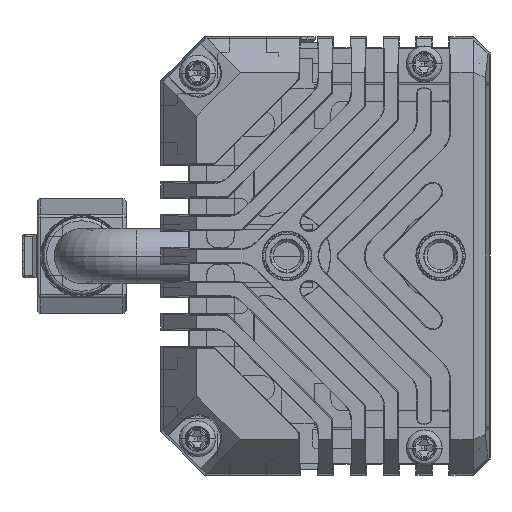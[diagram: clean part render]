
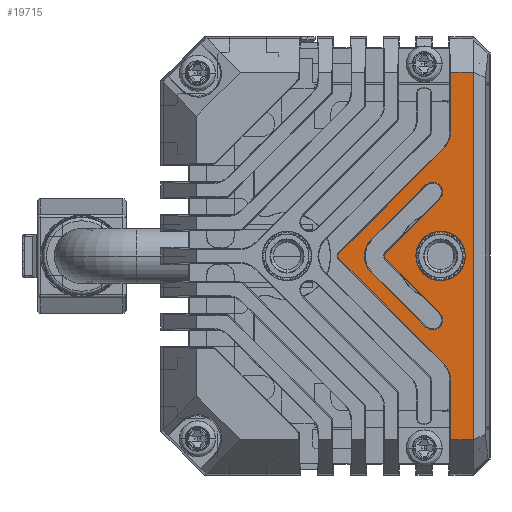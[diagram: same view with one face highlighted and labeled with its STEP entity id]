
A CAD part, left-side view. The second image highlights one B-rep face of the part: STEP entity #19715.
In plain terms, the highlighted planar face has unit normal (-1, 0, 0) as drawn and (0, 0, 1) by its records, which use the part's own axes.
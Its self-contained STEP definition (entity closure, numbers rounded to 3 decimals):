
#12613=CARTESIAN_POINT('',(0.,-1.473,0.));
#12614=DIRECTION('',(0.,0.,1.));
#12615=DIRECTION('',(0.707,0.707,0.));
#12616=AXIS2_PLACEMENT_3D('',#12613,#12614,#12615);
#12622=DIRECTION('',(0.707,-0.707,0.));
#12623=VECTOR('',#12622,13.498);
#12624=CARTESIAN_POINT('',(0.242,-1.231,0.));
#12625=LINE('',#12624,#12623);
#12629=DIRECTION('',(-1.,0.,0.));
#12630=VECTOR('',#12629,5.438);
#12631=CARTESIAN_POINT('',(16.75,-11.407,0.));
#12632=LINE('',#12631,#12630);
#12636=DIRECTION('',(0.,1.,0.));
#12637=VECTOR('',#12636,2.093);
#12638=CARTESIAN_POINT('',(16.75,-13.5,0.));
#12639=LINE('',#12638,#12637);
#12643=DIRECTION('',(1.,0.,0.));
#12644=VECTOR('',#12643,33.5);
#12645=CARTESIAN_POINT('',(-16.75,-13.5,0.));
#12646=LINE('',#12645,#12644);
#12650=DIRECTION('',(0.,1.,0.));
#12651=VECTOR('',#12650,2.093);
#12652=CARTESIAN_POINT('',(-16.75,-13.5,0.));
#12653=LINE('',#12652,#12651);
#12657=DIRECTION('',(1.,0.,0.));
#12658=VECTOR('',#12657,5.438);
#12659=CARTESIAN_POINT('',(-16.75,-11.407,0.));
#12660=LINE('',#12659,#12658);
#12664=DIRECTION('',(0.707,0.707,0.));
#12665=VECTOR('',#12664,13.498);
#12666=CARTESIAN_POINT('',(-9.787,-10.775,0.));
#12667=LINE('',#12666,#12665);
#12671=CARTESIAN_POINT('',(0.,-5.716,0.));
#12672=DIRECTION('',(0.,0.,1.));
#12673=DIRECTION('',(0.707,0.707,0.));
#12674=AXIS2_PLACEMENT_3D('',#12671,#12672,#12673);
#12679=DIRECTION('',(0.707,-0.707,0.));
#12680=VECTOR('',#12679,6.997);
#12681=CARTESIAN_POINT('',(0.242,-5.473,0.));
#12682=LINE('',#12681,#12680);
#12686=CARTESIAN_POINT('',(5.831,-9.78,0.));
#12687=DIRECTION('',(0.,0.,1.));
#12688=DIRECTION('',(-0.707,-0.707,0.));
#12689=AXIS2_PLACEMENT_3D('',#12686,#12687,#12688);
#12694=DIRECTION('',(-0.707,0.707,0.));
#12695=VECTOR('',#12694,6.997);
#12696=CARTESIAN_POINT('',(6.473,-9.138,0.));
#12697=LINE('',#12696,#12695);
#12701=DIRECTION('',(-0.707,-0.707,0.));
#12702=VECTOR('',#12701,6.997);
#12703=CARTESIAN_POINT('',(-1.525,-4.191,0.));
#12704=LINE('',#12703,#12702);
#12708=CARTESIAN_POINT('',(-5.831,-9.78,0.));
#12709=DIRECTION('',(0.,0.,1.));
#12710=DIRECTION('',(-0.707,0.707,0.));
#12711=AXIS2_PLACEMENT_3D('',#12708,#12709,#12710);
#12716=DIRECTION('',(0.707,0.707,0.));
#12717=VECTOR('',#12716,6.997);
#12718=CARTESIAN_POINT('',(-5.19,-10.421,0.));
#12719=LINE('',#12718,#12717);
#13386=CARTESIAN_POINT('',(0.,-10.5,0.));
#13387=DIRECTION('',(0.,0.,1.));
#13388=DIRECTION('',(1.,0.,0.));
#13389=AXIS2_PLACEMENT_3D('',#13386,#13387,#13388);
#13394=CARTESIAN_POINT('',(0.,-10.5,0.));
#13395=DIRECTION('',(0.,0.,1.));
#13396=DIRECTION('',(-1.,0.,0.));
#13397=AXIS2_PLACEMENT_3D('',#13394,#13395,#13396);
#13424=CARTESIAN_POINT('',(-11.312,-9.25,0.));
#13425=DIRECTION('',(0.,0.,-1.));
#13426=DIRECTION('',(0.707,-0.707,0.));
#13427=AXIS2_PLACEMENT_3D('',#13424,#13425,#13426);
#16755=CARTESIAN_POINT('',(11.312,-9.25,0.));
#16756=DIRECTION('',(0.,0.,-1.));
#16757=DIRECTION('',(0.,-1.,0.));
#16758=AXIS2_PLACEMENT_3D('',#16755,#16756,#16757);
#18424=CARTESIAN_POINT('',(0.,-5.716,0.));
#18425=DIRECTION('',(0.,0.,-1.));
#18426=DIRECTION('',(-0.707,0.707,0.));
#18427=AXIS2_PLACEMENT_3D('',#18424,#18425,#18426);
#18580=CARTESIAN_POINT('',(-16.75,-13.5,0.));
#18581=CARTESIAN_POINT('',(16.75,-13.5,0.));
#18582=VERTEX_POINT('',#18580);
#18583=VERTEX_POINT('',#18581);
#18596=CARTESIAN_POINT('',(2.,-10.5,0.));
#18597=CARTESIAN_POINT('',(-2.,-10.5,0.));
#18598=VERTEX_POINT('',#18596);
#18599=VERTEX_POINT('',#18597);
#18680=CARTESIAN_POINT('',(16.75,-11.407,0.));
#18681=VERTEX_POINT('',#18680);
#18690=CARTESIAN_POINT('',(-6.473,-9.138,0.));
#18692=VERTEX_POINT('',#18690);
#18696=CARTESIAN_POINT('',(-5.19,-10.421,0.));
#18697=VERTEX_POINT('',#18696);
#18702=CARTESIAN_POINT('',(6.473,-9.138,0.));
#18703=VERTEX_POINT('',#18702);
#18704=CARTESIAN_POINT('',(5.19,-10.421,0.));
#18705=VERTEX_POINT('',#18704);
#18710=CARTESIAN_POINT('',(11.312,-11.407,0.));
#18711=VERTEX_POINT('',#18710);
#18712=CARTESIAN_POINT('',(9.787,-10.775,0.));
#18713=VERTEX_POINT('',#18712);
#18774=CARTESIAN_POINT('',(-9.787,-10.775,0.));
#18775=VERTEX_POINT('',#18774);
#18776=CARTESIAN_POINT('',(-11.312,-11.407,0.));
#18777=VERTEX_POINT('',#18776);
#18782=CARTESIAN_POINT('',(-1.525,-4.191,0.));
#18783=VERTEX_POINT('',#18782);
#18784=CARTESIAN_POINT('',(1.525,-4.191,0.));
#18785=VERTEX_POINT('',#18784);
#18800=CARTESIAN_POINT('',(-16.75,-11.407,0.));
#18801=VERTEX_POINT('',#18800);
#18802=CARTESIAN_POINT('',(0.242,-5.473,0.));
#18803=CARTESIAN_POINT('',(-0.242,-5.473,0.));
#18804=VERTEX_POINT('',#18802);
#18805=VERTEX_POINT('',#18803);
#18810=CARTESIAN_POINT('',(0.242,-1.231,0.));
#18811=CARTESIAN_POINT('',(-0.242,-1.231,0.));
#18812=VERTEX_POINT('',#18810);
#18813=VERTEX_POINT('',#18811);
#19664=CARTESIAN_POINT('',(0.,0.,0.));
#19665=DIRECTION('',(0.,0.,1.));
#19666=DIRECTION('',(1.,0.,0.));
#19667=AXIS2_PLACEMENT_3D('',#19664,#19665,#19666);
#19668=PLANE('',#19667);
#19670=ORIENTED_EDGE('',*,*,#19669,.F.);
#19672=ORIENTED_EDGE('',*,*,#19671,.T.);
#19674=ORIENTED_EDGE('',*,*,#19673,.F.);
#19676=ORIENTED_EDGE('',*,*,#19675,.F.);
#19678=ORIENTED_EDGE('',*,*,#19677,.F.);
#19680=ORIENTED_EDGE('',*,*,#19679,.F.);
#19682=ORIENTED_EDGE('',*,*,#19681,.T.);
#19684=ORIENTED_EDGE('',*,*,#19683,.T.);
#19686=ORIENTED_EDGE('',*,*,#19685,.F.);
#19688=ORIENTED_EDGE('',*,*,#19687,.T.);
#19689=EDGE_LOOP('',(#19670,#19672,#19674,#19676,#19678,#19680,#19682,#19684,
#19686,#19688));
#19690=FACE_OUTER_BOUND('',#19689,.F.);
#19692=ORIENTED_EDGE('',*,*,#19691,.F.);
#19694=ORIENTED_EDGE('',*,*,#19693,.T.);
#19696=ORIENTED_EDGE('',*,*,#19695,.T.);
#19698=ORIENTED_EDGE('',*,*,#19697,.T.);
#19700=ORIENTED_EDGE('',*,*,#19699,.F.);
#19702=ORIENTED_EDGE('',*,*,#19701,.T.);
#19704=ORIENTED_EDGE('',*,*,#19703,.T.);
#19706=ORIENTED_EDGE('',*,*,#19705,.T.);
#19707=EDGE_LOOP('',(#19692,#19694,#19696,#19698,#19700,#19702,#19704,#19706));
#19708=FACE_BOUND('',#19707,.F.);
#19710=ORIENTED_EDGE('',*,*,#19709,.T.);
#19712=ORIENTED_EDGE('',*,*,#19711,.T.);
#19713=EDGE_LOOP('',(#19710,#19712));
#19714=FACE_BOUND('',#19713,.F.);
#12617=CIRCLE('',#12616,0.343);
#12675=CIRCLE('',#12674,0.343);
#12690=CIRCLE('',#12689,0.907);
#12712=CIRCLE('',#12711,0.907);
#13390=CIRCLE('',#13389,2.);
#13398=CIRCLE('',#13397,2.);
#13428=CIRCLE('',#13427,2.157);
#16759=CIRCLE('',#16758,2.157);
#18428=CIRCLE('',#18427,2.157);
#19669=EDGE_CURVE('',#18812,#18813,#12617,.T.);
#19671=EDGE_CURVE('',#18812,#18713,#12625,.T.);
#19673=EDGE_CURVE('',#18711,#18713,#16759,.T.);
#19675=EDGE_CURVE('',#18681,#18711,#12632,.T.);
#19677=EDGE_CURVE('',#18583,#18681,#12639,.T.);
#19679=EDGE_CURVE('',#18582,#18583,#12646,.T.);
#19681=EDGE_CURVE('',#18582,#18801,#12653,.T.);
#19683=EDGE_CURVE('',#18801,#18777,#12660,.T.);
#19685=EDGE_CURVE('',#18775,#18777,#13428,.T.);
#19687=EDGE_CURVE('',#18775,#18813,#12667,.T.);
#19691=EDGE_CURVE('',#18804,#18805,#12675,.T.);
#19693=EDGE_CURVE('',#18804,#18705,#12682,.T.);
#19695=EDGE_CURVE('',#18705,#18703,#12690,.T.);
#19697=EDGE_CURVE('',#18703,#18785,#12697,.T.);
#19699=EDGE_CURVE('',#18783,#18785,#18428,.T.);
#19701=EDGE_CURVE('',#18783,#18692,#12704,.T.);
#19703=EDGE_CURVE('',#18692,#18697,#12712,.T.);
#19705=EDGE_CURVE('',#18697,#18805,#12719,.T.);
#19709=EDGE_CURVE('',#18598,#18599,#13390,.T.);
#19711=EDGE_CURVE('',#18599,#18598,#13398,.T.);
#19715=ADVANCED_FACE('',(#19690,#19708,#19714),#19668,.T.);
